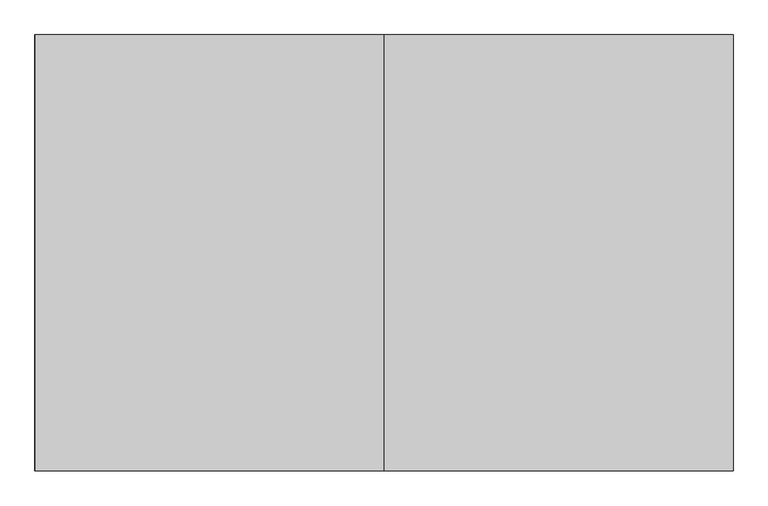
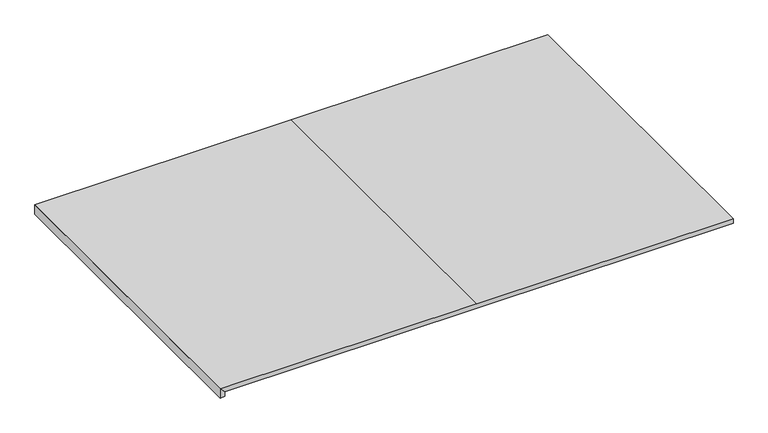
"""IFC4 building model written with IfcOpenShell, lengths in millimetres: proxy geometry, AERO^OFFICE 4_78 WALL HUNG-LEFT TACK."""

import ifcopenshell
import ifcopenshell.guid

model = None  # the IFC model being written
_history = None  # IfcOwnerHistory: only IFC2X3 demands one
_inside = {}  # id of a spatial element -> (the spatial element, [elements in it])
_under = {}  # id of a project, library or spatial element -> (it, [spatial elements below it])
_declared = {}  # id of a project -> (the project, [libraries it declares])
_typed = {}  # id of a type object -> (the type object, [elements of that type])
_made_of = {}  # id of a material, layer set ... -> (it, [elements and type objects made of it])


def new_model(schema):
    """Start an empty IFC model of exactly this schema.

    Asked for "IFC4X3", IfcOpenShell would pick the latest addendum, in which some entities
    have other attributes; the version numbers below select the first issue.
    IFC2X3 requires an IfcOwnerHistory on every rooted entity: one is made here for all.
    """
    global model, _history
    if schema == "IFC4X3":
        model = ifcopenshell.file(schema_version=(4, 3, 0, 0))
    else:
        model = ifcopenshell.file(schema=schema)
    _inside.clear()
    _under.clear()
    _declared.clear()
    _typed.clear()
    _made_of.clear()
    _history = None
    if model.schema == "IFC2X3":
        org = make("IfcOrganization", Name="unknown")
        user = make(
            "IfcPersonAndOrganization",
            ThePerson=make("IfcPerson", FamilyName="unknown"),
            TheOrganization=org,
        )
        app = make(
            "IfcApplication",
            ApplicationDeveloper=org,
            Version="unknown",
            ApplicationFullName="unknown",
            ApplicationIdentifier="unknown",
        )
        _history = make(
            "IfcOwnerHistory",
            OwningUser=user,
            OwningApplication=app,
            ChangeAction="ADDED",
            CreationDate=0,
        )
    return model


def make(cls, **values):
    """One entity of the class cls with the attributes given. An attribute that is None is left unset."""
    return model.create_entity(
        cls, **{name: value for name, value in values.items() if value is not None}
    )


def rooted(cls, **values):
    """An entity with a GlobalId (a new one), such as an element, a storey or a relation."""
    return make(cls, GlobalId=ifcopenshell.guid.new(), OwnerHistory=_history, **values)


def si_unit(unit_type, name, prefix=None):
    """IfcSIUnit, for example si_unit("LENGTHUNIT", "METRE", prefix="MILLI")."""
    return make("IfcSIUnit", UnitType=unit_type, Prefix=prefix, Name=name)


def assignment(units):
    """IfcUnitAssignment: the units of a project."""
    return None if units is None else make("IfcUnitAssignment", Units=units)


def point(xyz):
    """IfcCartesianPoint."""
    return None if xyz is None else make("IfcCartesianPoint", Coordinates=xyz)


def direction(xyz):
    """IfcDirection."""
    return None if xyz is None else make("IfcDirection", DirectionRatios=xyz)


def frame(location, z_axis=None, x_axis=None):
    """IfcAxis2Placement3D, a coordinate frame: its origin and axes. An axis left out is left unset."""
    return make(
        "IfcAxis2Placement3D",
        Location=point(location),
        Axis=direction(z_axis),
        RefDirection=direction(x_axis),
    )


def origin():
    """The frame at (0, 0, 0) with its axes left unset."""
    return frame((0.0, 0.0, 0.0))


def place(relative_to, where):
    """IfcLocalPlacement: puts the frame where relative to a parent placement (None: the world)."""
    return make(
        "IfcLocalPlacement", PlacementRelTo=relative_to, RelativePlacement=where
    )


def context(
    kind, dimensions, precision=None, world=None, true_north=None, identifier=None
):
    """IfcGeometricRepresentationContext, for example the 3D "Model" context."""
    return make(
        "IfcGeometricRepresentationContext",
        ContextIdentifier=identifier,
        ContextType=kind,
        CoordinateSpaceDimension=dimensions,
        Precision=precision,
        WorldCoordinateSystem=world,
        TrueNorth=true_north,
    )


def project(units=None, contexts=None):
    """IfcProject with its units and contexts."""
    return rooted(
        "IfcProject",
        Name="project",
        RepresentationContexts=contexts,
        UnitsInContext=assignment(units),
    )


def spatial(cls, under=None, at=None, **own):
    """A site, building, storey or space (cls), placed at a placement, below another one or the project."""
    s = rooted(cls, ObjectPlacement=at, **own)
    if under is not None:
        _under.setdefault(under.id(), (under, []))[1].append(s)
    return s


def polyline(points):
    """IfcPolyline through the points."""
    return make("IfcPolyline", Points=[point(p) for p in points])


def outline(outer, holes=None, kind="AREA"):
    """IfcArbitraryClosedProfileDef: a profile drawn as a closed curve; with holes, ...WithVoids."""
    if holes is None:
        return make("IfcArbitraryClosedProfileDef", ProfileType=kind, OuterCurve=outer)
    return make(
        "IfcArbitraryProfileDefWithVoids",
        ProfileType=kind,
        OuterCurve=outer,
        InnerCurves=holes,
    )


def extrude(swept, where, along, depth):
    """IfcExtrudedAreaSolid: the profile swept, set in the frame where, extruded along a direction by depth."""
    return make(
        "IfcExtrudedAreaSolid",
        SweptArea=swept,
        Position=where,
        ExtrudedDirection=direction(along),
        Depth=depth,
    )


def shape(context_of_items, identifier, shape_type, items):
    """IfcShapeRepresentation: the items that make up one representation, for example the "Body"."""
    return make(
        "IfcShapeRepresentation",
        ContextOfItems=context_of_items,
        RepresentationIdentifier=identifier,
        RepresentationType=shape_type,
        Items=items,
    )


def source(mapping_origin, context_of_items, identifier, shape_type, items):
    """IfcRepresentationMap: a shape defined once, which mapped items show again and again."""
    return make(
        "IfcRepresentationMap",
        MappingOrigin=mapping_origin,
        MappedRepresentation=shape(context_of_items, identifier, shape_type, items),
    )


def transform(
    local_origin,
    x_axis=None,
    y_axis=None,
    z_axis=None,
    scale=None,
    scale2=None,
    scale3=None,
    uniform=True,
):
    """IfcCartesianTransformationOperator3D, or its non-uniform kind. x_axis, y_axis, z_axis: its Axis1, 2, 3."""
    if uniform:
        return make(
            "IfcCartesianTransformationOperator3D",
            Axis1=direction(x_axis),
            Axis2=direction(y_axis),
            LocalOrigin=point(local_origin),
            Scale=scale,
            Axis3=direction(z_axis),
        )
    return make(
        "IfcCartesianTransformationOperator3DnonUniform",
        Axis1=direction(x_axis),
        Axis2=direction(y_axis),
        LocalOrigin=point(local_origin),
        Scale=scale,
        Axis3=direction(z_axis),
        Scale2=scale2,
        Scale3=scale3,
    )


def mapped(mapping_source, mapping_target):
    """IfcMappedItem: shows the shape of a source again, moved by a transform."""
    return make(
        "IfcMappedItem", MappingSource=mapping_source, MappingTarget=mapping_target
    )


def made_of(thing, what):
    """Note that an element or type object is made of a material, layer set ...; save() writes the relation."""
    if what is not None:
        _made_of.setdefault(what.id(), (what, []))[1].append(thing)
    return thing


def element(
    cls,
    number,
    at=None,
    inside=None,
    cuts=None,
    type_object=None,
    material=None,
    context=None,
    identifier="Body",
    shape_type=None,
    held_by="IfcProductDefinitionShape",
    body=None,
    shapes=None,
    **own,
):
    """One element of the class cls, such as IfcWall. Its Tag is "e" and its number.

    at: its placement. inside: the storey or other place that contains it. cuts: it is an
    opening in that element (IfcRelVoidsElement). A single representation is given by context,
    identifier, shape_type and body (its items); several are given by shapes. held_by: the class
    of the entity that holds the representations. save() writes the other relations.
    """
    e = rooted(cls, Tag="e%d" % number, ObjectPlacement=at, **own)
    if body is not None:
        shapes = [shape(context, identifier, shape_type, body)]
    if shapes is not None:
        e.Representation = make(held_by, Representations=shapes)
    if inside is not None:
        _inside.setdefault(inside.id(), (inside, []))[1].append(e)
    if cuts is not None:
        rooted(
            "IfcRelVoidsElement", RelatingBuildingElement=cuts, RelatedOpeningElement=e
        )
    if type_object is not None:
        _typed.setdefault(type_object.id(), (type_object, []))[1].append(e)
    return made_of(e, material)


def aggregate(whole, parts):
    """IfcRelAggregates: a whole, such as a stair, and the parts it consists of."""
    return rooted("IfcRelAggregates", RelatingObject=whole, RelatedObjects=parts)


def save(model, path):
    """Write the relations noted so far, then the file.

    IfcRelAggregates (storeys below a building ...), IfcRelContainedInSpatialStructure (elements
    in a storey), IfcRelDefinesByType, IfcRelAssociatesMaterial and IfcRelDeclares: one each for
    every whole, place, type object, material and project.
    """
    for whole, parts in _under.values():
        aggregate(whole, parts)
    for where, things in _inside.values():
        rooted(
            "IfcRelContainedInSpatialStructure",
            RelatedElements=things,
            RelatingStructure=where,
        )
    for kind, things in _typed.values():
        rooted("IfcRelDefinesByType", RelatedObjects=things, RelatingType=kind)
    for what, things in _made_of.values():
        rooted("IfcRelAssociatesMaterial", RelatedObjects=things, RelatingMaterial=what)
    for by, libraries in _declared.values():
        rooted("IfcRelDeclares", RelatingContext=by, RelatedDefinitions=libraries)
    model.write(path)


def generic_models_a4852ea4(model_context):
    return source(origin(), model_context, "Body", "SweptSolid", [
        extrude(outline(polyline([(0.0, 19.05), (19.05, 0.0), (-19.05, 0.0), (-19.05, 19.05), (0.0, 19.05)])), frame((0.0, 0.0, 0.0), z_axis=(0.0, 1.0, 0.0), x_axis=(0.0, 0.0, 1.0)), (0.0, 0.0, 1.0), 1238.25),
        extrude(outline(polyline([(19.05, 0.0), (0.0, 19.05), (0.0, 1981.2), (19.05, 1981.2), (19.05, 990.6), (19.05, 0.0)])), frame((0.0, 0.0, 0.0), z_axis=(0.0, 1.0, 0.0), x_axis=(0.0, 0.0, 1.0)), (0.0, 0.0, 1.0), 1238.25),
    ])


if __name__ == "__main__":
    model = new_model("IFC4")
    model_context = context("Model", 3, world=origin())
    ifc_project = project(units=[si_unit("LENGTHUNIT", "METRE", prefix="MILLI")], contexts=[model_context])
    site = spatial("IfcSite", under=ifc_project)
    building = spatial("IfcBuilding", under=site)
    placement = place(None, origin())
    generic_models_shape = generic_models_a4852ea4(model_context)
    element("IfcBuildingElementProxy", 1, Name="AERO^OFFICE 4_78 WALL HUNG-LEFT TACK", ObjectType="AERO^OFFICE 4_78 WALL HUNG-LEFT TACK", at=placement, inside=building, context=model_context, shape_type="MappedRepresentation", body=[
        mapped(generic_models_shape, transform((0.0, 0.0, 0.0), x_axis=(1.0, 0.0, 0.0), y_axis=(0.0, 1.0, 0.0), z_axis=(0.0, 0.0, 1.0))),
    ])
    save(model, "model.ifc")
